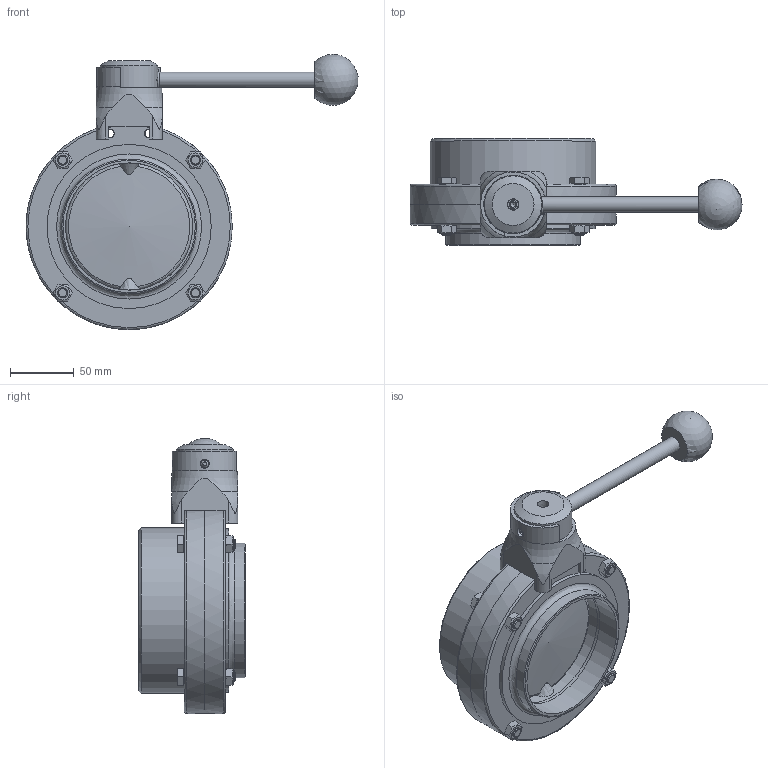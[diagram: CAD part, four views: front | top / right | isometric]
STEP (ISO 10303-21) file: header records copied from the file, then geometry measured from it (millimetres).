
FILE_DESCRIPTION((''),'2;1');
FILE_NAME('K:\2013 konstrukce\4xxxx\43020-KLAPKA PŘÍMÁ G-S\43020-100\43020-100.stp','2019-12-09T14:17:40',('konstrukce'),(''),'Autodesk Inventor 2010','Autodesk Inventor 2010','');
FILE_SCHEMA(('AUTOMOTIVE_DESIGN { 1 0 10303 214 1 1 1 1 }'));
Length unit declared in the file: millimetre
Products named in the file (16): 43020-100; 4329-100-Srdca klapky; 4330-100-Ložisko klapky; 4381-100-R-NEW-TW-PŘÍRUBA PŘÍVAŘOVACÍ; 4382-100-NEW-TW-Přírubá klapka-závitová; 20040-100-Těsnění; 4328-100-Těsnění pro klapku; DIN 933 - nahrazený DIN EN 24017 M8  x 40; DIN 934 - nahrazený DIN EN 24032/28673/28674 M8; 43380-080-100; 43481-080-100-9,5; 43482-080-100-2; 43482-080-100; 43483-080-100; 43484-Pružina velká-080-100; KOULA-80-100
Assembly tree (22 placements, depth 3):
  43020-100
    4329-100-Srdca klapky
    4330-100-Ložisko klapky  x2
    4381-100-R-NEW-TW-PŘÍRUBA PŘÍVAŘOVACÍ
    4382-100-NEW-TW-Přírubá klapka-závitová
    20040-100-Těsnění
    4328-100-Těsnění pro klapku
    DIN 933 - nahrazený DIN EN 24017 M8  x 40  x4
    DIN 934 - nahrazený DIN EN 24032/28673/28674 M8  x4
    43380-080-100
      43481-080-100-9,5
      43482-080-100-2
      43482-080-100
      43483-080-100
      43484-Pružina velká-080-100
      KOULA-80-100
Bounding box: 260.85 x 84 x 216.18 mm (x, y, z)
Volume: 819271.1 mm3; surface area: 225797.9 mm2
Topology: 21 solids, 21 shells, 334 faces, 781 edges, 493 vertices
Faces by surface type: plane 150, cylinder 75, cone 68, bspline 30, torus 10, sphere 1
Full cylindrical faces by diameter (mm): 6 x2, 6.5 x4, 7.323 x4, 8 x4, 8.5 x11, 11.4 x4, 12 x2, 12.2 x1, 13.7 x1, 14 x4, 16 x3, 16.1 x1, 45 x1, 100 x2, 104 x2, 106 x1, 113.8 x1, 114 x1, 115.4 x2, 116 x1, 129 x1, 130 x1, 162 x2
Entity records: 8579 total; most frequent: CARTESIAN_POINT 3283, DIRECTION 1007, ORIENTED_EDGE 870, EDGE_CURVE 435, AXIS2_PLACEMENT_3D 420, EDGE_LOOP 379, VERTEX_POINT 326, FACE_OUTER_BOUND 228
